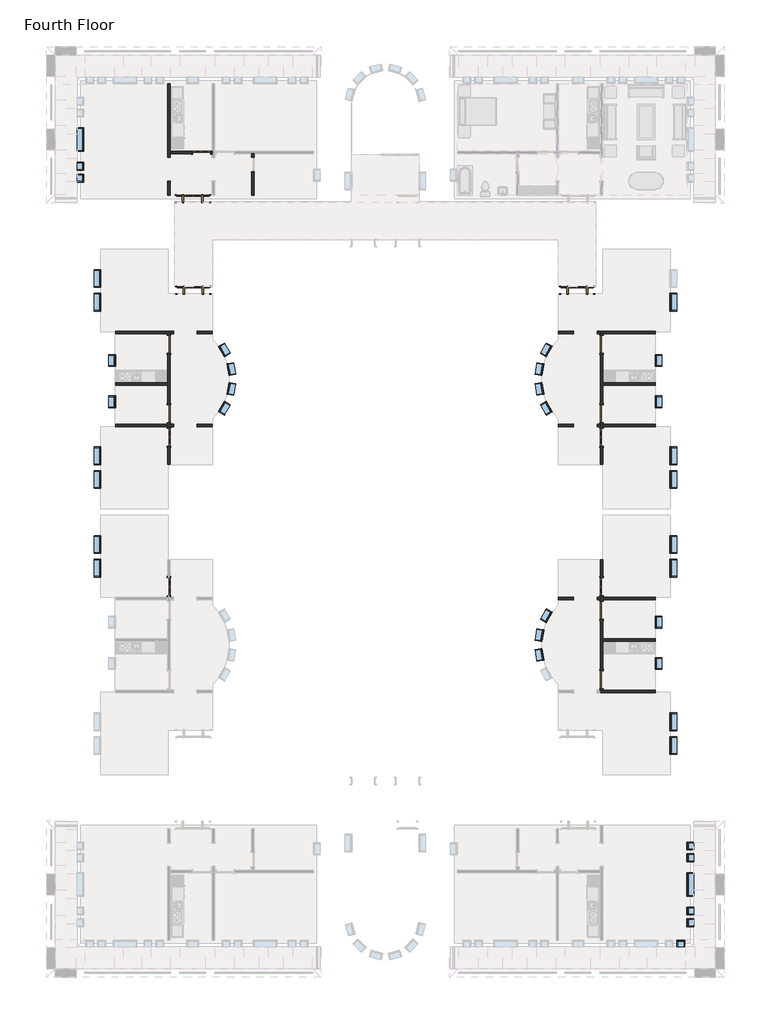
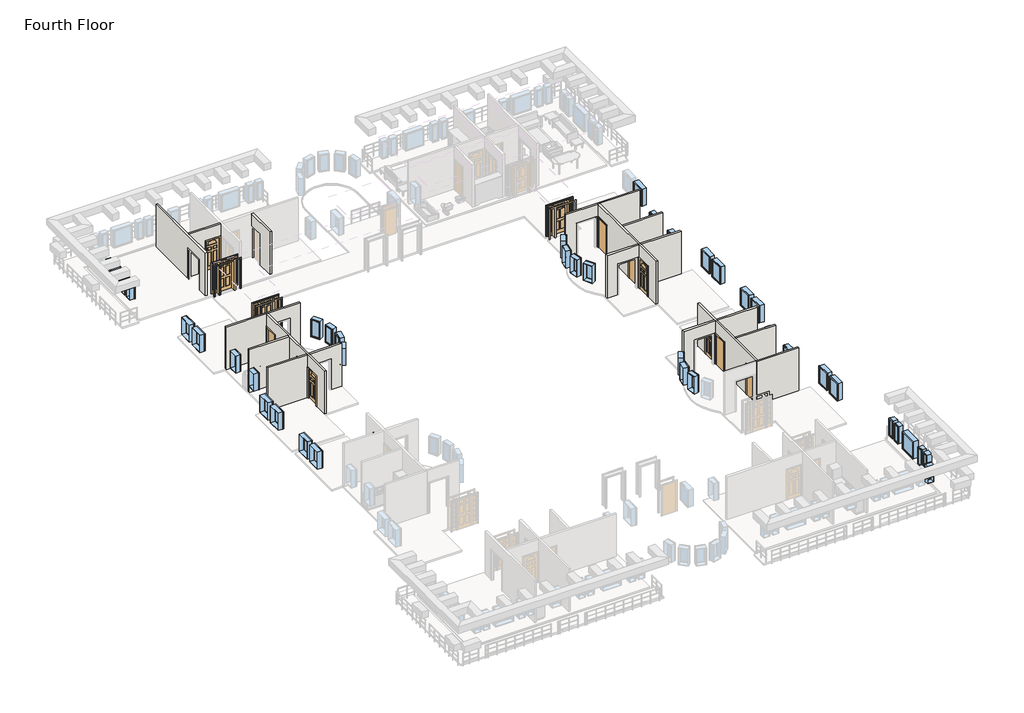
# One storey, part 2 of 5: 39 windows, 20 walls, 14 doors.
"""IFC4 building model written with IfcOpenShell, lengths in millimetres."""

from ifc_helpers import new_model, si_unit, frame, origin, place, context, project, spatial, polyline, outline, extrude, faceted_brep, transform, mapped, element, save
from components import door_829da954, door_2e3b4da2, door_a1797ceb, door_a3eb833a, door_dba5aa2e, door_ffdb1193, window_da97879f, window_d61ef850, window_60baf983, window_ed80354a, window_15c49d37, window_0e2fc6ce, window_d89bf842

model = new_model("IFC4")

# Units and contexts
model_context = context("Model", 3, world=origin())
ifc_project = project(units=[si_unit("LENGTHUNIT", "METRE", prefix="MILLI")], contexts=[model_context])

# Site, building, storey
site = spatial("IfcSite", under=ifc_project)
building = spatial("IfcBuilding", under=site)
storey = spatial("IfcBuildingStorey", under=building, Name="Fourth Floor", Elevation=9144.0)

# Doors
placement = place(None, origin())
door_shape = door_829da954(model_context)
element("IfcDoor", 1, ObjectType="Single-Decorative 2 : 36\" x 84\"", at=placement, inside=storey, context=model_context, shape_type="MappedRepresentation", body=[
    mapped(door_shape, transform((-26096.8839563, -7954.4808133, 9144.0), x_axis=(0.0, 1.0, 0.0), y_axis=(-1.0, 0.0, 0.0), z_axis=(0.0, 0.0, 1.0))),
])
element("IfcDoor", 2, ObjectType="Single-Decorative 2 : 36\" x 84\"", at=placement, inside=storey, context=model_context, shape_type="MappedRepresentation", body=[
    mapped(door_shape, transform((-3773.4589563, -15653.8558133, 9144.0), x_axis=(0.0, -1.0, 0.0), y_axis=(1.0, 0.0, 0.0), z_axis=(0.0, 0.0, 1.0))),
])
door_2_shape = door_2e3b4da2(model_context)
element("IfcDoor", 3, ObjectType="Single-Decorative 2 : 36\" x 84\"", at=placement, inside=storey, context=model_context, shape_type="MappedRepresentation", body=[
    mapped(door_2_shape, transform((-3773.4589563, -7954.4808133, 9144.0), x_axis=(0.0, 1.0, 0.0), y_axis=(-1.0, 0.0, 0.0), z_axis=(0.0, 0.0, 1.0))),
])
element("IfcDoor", 4, ObjectType="Single-Decorative 2 : 36\" x 84\"", at=placement, inside=storey, context=model_context, shape_type="MappedRepresentation", body=[
    mapped(door_2_shape, transform((-24420.4839563, 6723.5441867, 9144.0), x_axis=(1.0, 0.0, 0.0), y_axis=(0.0, 1.0, 0.0), z_axis=(0.0, 0.0, 1.0))),
])
element("IfcDoor", 5, ObjectType="Single-Decorative 2 : 36\" x 84\"", at=placement, inside=storey, context=model_context, shape_type="MappedRepresentation", body=[
    mapped(door_2_shape, transform((-26096.8839563, -15653.8558133, 9144.0), x_axis=(0.0, -1.0, 0.0), y_axis=(1.0, 0.0, 0.0), z_axis=(0.0, 0.0, 1.0))),
])
door_3_shape = door_a1797ceb(model_context)
element("IfcDoor", 6, ObjectType="Single-Flush : 36\" x 84\"", at=placement, inside=storey, context=model_context, shape_type="MappedRepresentation", body=[
    mapped(door_3_shape, transform((-3773.4589563, -3157.0558133, 9144.0), x_axis=(0.0, 1.0, 0.0), y_axis=(-1.0, 0.0, 0.0), z_axis=(0.0, 0.0, 1.0))),
])
element("IfcDoor", 7, ObjectType="Single-Flush : 36\" x 84\"", at=placement, inside=storey, context=model_context, shape_type="MappedRepresentation", body=[
    mapped(door_3_shape, transform((-26096.8839563, -6735.2808133, 9144.0), x_axis=(0.0, -1.0, 0.0), y_axis=(1.0, 0.0, 0.0), z_axis=(0.0, 0.0, 1.0))),
])
element("IfcDoor", 8, ObjectType="Single-Flush : 36\" x 84\"", at=placement, inside=storey, context=model_context, shape_type="MappedRepresentation", body=[
    mapped(door_3_shape, transform((-3773.4589563, -16873.0558133, 9144.0), x_axis=(0.0, 1.0, 0.0), y_axis=(-1.0, 0.0, 0.0), z_axis=(0.0, 0.0, 1.0))),
])
door_4_shape = door_a3eb833a(model_context)
element("IfcDoor", 9, ObjectType="Single-Flush : 36\" x 84\"", at=placement, inside=storey, context=model_context, shape_type="MappedRepresentation", body=[
    mapped(door_4_shape, transform((-3773.4589563, -6735.2808133, 9144.0), x_axis=(0.0, -1.0, 0.0), y_axis=(1.0, 0.0, 0.0), z_axis=(0.0, 0.0, 1.0))),
])
element("IfcDoor", 10, ObjectType="Single-Flush : 36\" x 84\"", at=placement, inside=storey, context=model_context, shape_type="MappedRepresentation", body=[
    mapped(door_4_shape, transform((-26096.8839563, -3157.0558133, 9144.0), x_axis=(0.0, 1.0, 0.0), y_axis=(-1.0, 0.0, 0.0), z_axis=(0.0, 0.0, 1.0))),
])
element("IfcDoor", 11, ObjectType="Single-Flush : 36\" x 84\"", at=placement, inside=storey, context=model_context, shape_type="MappedRepresentation", body=[
    mapped(door_4_shape, transform((-3773.4589563, -20451.2808133, 9144.0), x_axis=(0.0, -1.0, 0.0), y_axis=(1.0, 0.0, 0.0), z_axis=(0.0, 0.0, 1.0))),
])
door_5_shape = door_dba5aa2e(model_context)
element("IfcDoor", 12, ObjectType="Single-Raised Panel with Sidelights : 36\" x 84\"", at=placement, inside=storey, context=model_context, shape_type="MappedRepresentation", body=[
    mapped(door_5_shape, transform((-5029.1714563, -374.1683133, 9144.0), x_axis=(-1.0, 0.0, 0.0), y_axis=(0.0, -1.0, 0.0), z_axis=(0.0, 0.0, 1.0))),
])
door_6_shape = door_ffdb1193(model_context)
element("IfcDoor", 13, ObjectType="Single-Raised Panel with Sidelights : 36\" x 84\"", at=placement, inside=storey, context=model_context, shape_type="MappedRepresentation", body=[
    mapped(door_6_shape, transform((-24877.6839563, 4350.2316867, 9144.0), x_axis=(1.0, 0.0, 0.0), y_axis=(0.0, 1.0, 0.0), z_axis=(0.0, 0.0, 1.0))),
])
element("IfcDoor", 14, ObjectType="Single-Raised Panel with Sidelights : 36\" x 84\"", at=placement, inside=storey, context=model_context, shape_type="MappedRepresentation", body=[
    mapped(door_6_shape, transform((-24841.1714563, -374.1683133, 9144.0), x_axis=(1.0, 0.0, 0.0), y_axis=(0.0, 1.0, 0.0), z_axis=(0.0, 0.0, 1.0))),
])

# Walls
element("IfcWall", 15, ObjectType="Interior - 5\" Partition (2-hr)", at=placement, inside=storey, context=model_context, shape_type="Brep", body=[
    faceted_brep([(-1014.3839563, -2483.9558133, 9144.0), (-3836.9589563, -2483.9558133, 9144.0), (-3836.9589563, -2483.9558133, 12192.0), (-1014.3839563, -2483.9558133, 12192.0), (-1014.3839563, -2610.9558133, 9144.0), (-1014.3839563, -2610.9558133, 12192.0), (-3709.9589563, -2610.9558133, 12192.0), (-3836.9589563, -2610.9558133, 12192.0), (-3836.9589563, -2610.9558133, 9144.0), (-3709.9589563, -2610.9558133, 9144.0)], [[[0, 1, 2, 3]], [[4, 5, 6, 7, 8, 9]], [[1, 0, 4, 9, 8]], [[3, 2, 7, 6, 5]], [[2, 1, 8, 7]], [[0, 3, 5, 4]]]),
])
element("IfcWall", 16, ObjectType="Interior - 5\" Partition (2-hr)", at=placement, inside=storey, context=model_context, shape_type="Brep", body=[
    faceted_brep([(-3709.9589563, -7497.2808133, 11277.6), (-3709.9589563, -7497.2808133, 9144.0), (-3709.9589563, -7408.3808133, 9144.0), (-3709.9589563, -7281.3808133, 9144.0), (-3709.9589563, -7192.4808133, 9144.0), (-3709.9589563, -7192.4808133, 11277.6), (-3709.9589563, -6278.0808133, 11277.6), (-3709.9589563, -6278.0808133, 9144.0), (-3709.9589563, -5274.7808133, 9144.0), (-3709.9589563, -5147.7808133, 9144.0), (-3709.9589563, -3614.2558133, 9144.0), (-3709.9589563, -3614.2558133, 11277.6), (-3709.9589563, -2699.8558133, 11277.6), (-3709.9589563, -2699.8558133, 9144.0), (-3709.9589563, -2610.9558133, 9144.0), (-3709.9589563, -2610.9558133, 12192.0), (-3709.9589563, -5147.7808133, 12192.0), (-3709.9589563, -5274.7808133, 12192.0), (-3709.9589563, -7281.3808133, 12192.0), (-3709.9589563, -7408.3808133, 12192.0), (-3709.9589563, -9341.9558133, 12192.0), (-3709.9589563, -9341.9558133, 9144.0), (-3709.9589563, -8411.6808133, 9144.0), (-3709.9589563, -8411.6808133, 11277.6), (-3836.9589563, -7192.4808133, 9144.0), (-3836.9589563, -7281.3808133, 9144.0), (-3836.9589563, -7408.3808133, 9144.0), (-3836.9589563, -7497.2808133, 9144.0), (-3836.9589563, -7497.2808133, 11277.6), (-3836.9589563, -8411.6808133, 11277.6), (-3836.9589563, -8411.6808133, 9144.0), (-3836.9589563, -9341.9558133, 9144.0), (-3836.9589563, -9341.9558133, 12192.0), (-3836.9589563, -7408.3808133, 12192.0), (-3836.9589563, -7281.3808133, 12192.0), (-3836.9589563, -2610.9558133, 12192.0), (-3836.9589563, -2610.9558133, 9144.0), (-3836.9589563, -2699.8558133, 9144.0), (-3836.9589563, -2699.8558133, 11277.6), (-3836.9589563, -3614.2558133, 11277.6), (-3836.9589563, -3614.2558133, 9144.0), (-3836.9589563, -6278.0808133, 9144.0), (-3836.9589563, -6278.0808133, 11277.6), (-3836.9589563, -7192.4808133, 11277.6)], [[[0, 1, 2, 3, 4, 5, 6, 7, 8, 9, 10, 11, 12, 13, 14, 15, 16, 17, 18, 19, 20, 21, 22, 23]], [[24, 25, 26, 27, 28, 29, 30, 31, 32, 33, 34, 35, 36, 37, 38, 39, 40, 41, 42, 43]], [[14, 13, 37, 36]], [[4, 3, 2, 1, 27, 26, 25, 24]], [[41, 40, 10, 9, 8, 7]], [[22, 21, 31, 30]], [[20, 19, 18, 17, 16, 15, 35, 34, 33, 32]], [[15, 14, 36, 35]], [[21, 20, 32, 31]], [[38, 37, 13, 12]], [[39, 38, 12, 11]], [[40, 39, 11, 10]], [[5, 4, 24, 43]], [[6, 5, 43, 42]], [[7, 6, 42, 41]], [[28, 27, 1, 0]], [[29, 28, 0, 23]], [[30, 29, 23, 22]]]),
])
element("IfcWall", 17, ObjectType="Interior - 5\" Partition (2-hr)", at=placement, inside=storey, context=model_context, shape_type="SweptSolid", body=[
    extrude(outline(polyline([(-3709.9589563, -7281.3808133), (-1014.3839563, -7281.3808133), (-1014.3839563, -7408.3808133), (-3709.9589563, -7408.3808133), (-3709.9589563, -7281.3808133)])), frame((0.0, 0.0, 9144.0), z_axis=(0.0, 0.0, 1.0), x_axis=(1.0, 0.0, 0.0)), (0.0, 0.0, 1.0), 3048.0),
])
element("IfcWall", 18, ObjectType="Interior - 5\" Partition (2-hr)", at=placement, inside=storey, context=model_context, shape_type="SweptSolid", body=[
    extrude(outline(polyline([(-1014.3839563, -5274.7808133), (-3709.9589563, -5274.7808133), (-3709.9589563, -5147.7808133), (-1014.3839563, -5147.7808133), (-1014.3839563, -5274.7808133)])), frame((0.0, 0.0, 9144.0), z_axis=(0.0, 0.0, 1.0), x_axis=(1.0, 0.0, 0.0)), (0.0, 0.0, 1.0), 3048.0),
])
element("IfcWall", 19, ObjectType="Interior - 5\" Partition (2-hr)", at=placement, inside=storey, context=model_context, shape_type="SweptSolid", body=[
    extrude(outline(polyline([(9144.0, -5995.9589563), (9144.0, -5221.2589563), (11277.6, -5221.2589563), (11277.6, -4002.0589563), (9144.0, -4002.0589563), (9144.0, -3836.9589563), (12192.0, -3836.9589563), (12192.0, -5995.9589563), (9144.0, -5995.9589563)])), frame((0.0, -7408.3808133, 0.0), z_axis=(0.0, 1.0, 0.0), x_axis=(0.0, 0.0, 1.0)), (0.0, 0.0, 1.0), 127.0),
])
element("IfcWall", 20, ObjectType="Interior - 5\" Partition (2-hr)", at=placement, inside=storey, context=model_context, shape_type="SweptSolid", body=[
    extrude(outline(polyline([(11277.6, -4002.0589563), (9144.0, -4002.0589563), (9144.0, -3836.9589563), (12192.0, -3836.9589563), (12192.0, -5995.9589563), (9144.0, -5995.9589563), (9144.0, -5221.2589563), (11277.6, -5221.2589563), (11277.6, -4002.0589563)])), frame((0.0, -2610.9558133, 0.0), z_axis=(0.0, 1.0, 0.0), x_axis=(0.0, 0.0, 1.0)), (0.0, 0.0, 1.0), 127.0),
])
element("IfcWall", 21, ObjectType="Interior - 5\" Partition (2-hr)", at=placement, inside=storey, context=model_context, shape_type="Brep", body=[
    faceted_brep([(-26160.3839563, 10270.0191867, 9144.0), (-26160.3839563, 6483.8316867, 9144.0), (-26160.3839563, 6483.8316867, 11277.6), (-26160.3839563, 5264.6316867, 11277.6), (-26160.3839563, 5264.6316867, 9144.0), (-26160.3839563, 4526.4441867, 9144.0), (-26160.3839563, 4526.4441867, 12192.0), (-26160.3839563, 10270.0191867, 12192.0), (-26033.3839563, 6483.8316867, 11277.6), (-26033.3839563, 6483.8316867, 9144.0), (-26033.3839563, 6660.0441867, 9144.0), (-26033.3839563, 6787.0441867, 9144.0), (-26033.3839563, 10270.0191867, 9144.0), (-26033.3839563, 10270.0191867, 12192.0), (-26033.3839563, 6787.0441867, 12192.0), (-26033.3839563, 6660.0441867, 12192.0), (-26033.3839563, 4526.4441867, 12192.0), (-26033.3839563, 4526.4441867, 9144.0), (-26033.3839563, 5264.6316867, 9144.0), (-26033.3839563, 5264.6316867, 11277.6)], [[[0, 1, 2, 3, 4, 5, 6, 7]], [[8, 9, 10, 11, 12, 13, 14, 15, 16, 17, 18, 19]], [[12, 11, 10, 9, 1, 0]], [[18, 17, 5, 4]], [[7, 6, 16, 15, 14, 13]], [[0, 7, 13, 12]], [[6, 5, 17, 16]], [[4, 3, 19, 18]], [[2, 1, 9, 8]], [[3, 2, 8, 19]]]),
])
element("IfcWall", 22, ObjectType="Interior - 5\" Partition (2-hr)", at=placement, inside=storey, context=model_context, shape_type="SweptSolid", body=[
    extrude(outline(polyline([(6660.0441867, 9144.0), (6494.9441867, 9144.0), (6494.9441867, 11277.6), (5732.9441867, 11277.6), (5732.9441867, 9144.0), (4526.4441867, 9144.0), (4526.4441867, 12192.0), (6660.0441867, 12192.0), (6660.0441867, 9144.0)])), frame((-21828.0964563, 0.0, 0.0), z_axis=(1.0, 0.0, 0.0), x_axis=(0.0, 1.0, 0.0)), (0.0, 0.0, 1.0), 127.0),
])
element("IfcWall", 23, ObjectType="Interior - 5\" Partition (2-hr)", at=placement, inside=storey, context=model_context, shape_type="SweptSolid", body=[
    extrude(outline(polyline([(11277.6, -23963.2839563), (9144.0, -23963.2839563), (9144.0, -23874.3839563), (12192.0, -23874.3839563), (12192.0, -26033.3839563), (9144.0, -26033.3839563), (9144.0, -24877.6839563), (11277.6, -24877.6839563), (11277.6, -23963.2839563)])), frame((0.0, 6660.0441867, 0.0), z_axis=(0.0, 1.0, 0.0), x_axis=(0.0, 0.0, 1.0)), (0.0, 0.0, 1.0), 127.0),
])
element("IfcWall", 24, ObjectType="Interior - 5\" Partition (2-hr)", at=placement, inside=storey, context=model_context, shape_type="Brep", body=[
    faceted_brep([(-28855.9589563, -2610.9558133, 9144.0), (-26160.3839563, -2610.9558133, 9144.0), (-26033.3839563, -2610.9558133, 9144.0), (-26033.3839563, -2610.9558133, 12192.0), (-26160.3839563, -2610.9558133, 12192.0), (-28855.9589563, -2610.9558133, 12192.0), (-28855.9589563, -2483.9558133, 9144.0), (-28855.9589563, -2483.9558133, 12192.0), (-26033.3839563, -2483.9558133, 12192.0), (-26033.3839563, -2483.9558133, 9144.0)], [[[0, 1, 2, 3, 4, 5]], [[6, 7, 8, 9]], [[2, 1, 0, 6, 9]], [[5, 4, 3, 8, 7]], [[3, 2, 9, 8]], [[0, 5, 7, 6]]]),
])
element("IfcWall", 25, ObjectType="Interior - 5\" Partition (2-hr)", at=placement, inside=storey, context=model_context, shape_type="Brep", body=[
    faceted_brep([(-26033.3839563, -7497.2808133, 11277.6), (-26033.3839563, -7497.2808133, 9144.0), (-26033.3839563, -7408.3808133, 9144.0), (-26033.3839563, -7281.3808133, 9144.0), (-26033.3839563, -7192.4808133, 9144.0), (-26033.3839563, -7192.4808133, 11277.6), (-26033.3839563, -6278.0808133, 11277.6), (-26033.3839563, -6278.0808133, 9144.0), (-26033.3839563, -3614.2558133, 9144.0), (-26033.3839563, -3614.2558133, 11277.6), (-26033.3839563, -2699.8558133, 11277.6), (-26033.3839563, -2699.8558133, 9144.0), (-26033.3839563, -2610.9558133, 9144.0), (-26033.3839563, -2610.9558133, 12192.0), (-26033.3839563, -7281.3808133, 12192.0), (-26033.3839563, -7408.3808133, 12192.0), (-26033.3839563, -9341.9558133, 12192.0), (-26033.3839563, -9341.9558133, 9144.0), (-26033.3839563, -8411.6808133, 9144.0), (-26033.3839563, -8411.6808133, 11277.6), (-26160.3839563, -7192.4808133, 9144.0), (-26160.3839563, -7281.3808133, 9144.0), (-26160.3839563, -7408.3808133, 9144.0), (-26160.3839563, -7497.2808133, 9144.0), (-26160.3839563, -7497.2808133, 11277.6), (-26160.3839563, -8411.6808133, 11277.6), (-26160.3839563, -8411.6808133, 9144.0), (-26160.3839563, -9341.9558133, 9144.0), (-26160.3839563, -9341.9558133, 12192.0), (-26160.3839563, -7408.3808133, 12192.0), (-26160.3839563, -7281.3808133, 12192.0), (-26160.3839563, -5274.7808133, 12192.0), (-26160.3839563, -5147.7808133, 12192.0), (-26160.3839563, -2610.9558133, 12192.0), (-26160.3839563, -2610.9558133, 9144.0), (-26160.3839563, -2699.8558133, 9144.0), (-26160.3839563, -2699.8558133, 11277.6), (-26160.3839563, -3614.2558133, 11277.6), (-26160.3839563, -3614.2558133, 9144.0), (-26160.3839563, -5147.7808133, 9144.0), (-26160.3839563, -5274.7808133, 9144.0), (-26160.3839563, -6278.0808133, 9144.0), (-26160.3839563, -6278.0808133, 11277.6), (-26160.3839563, -7192.4808133, 11277.6)], [[[0, 1, 2, 3, 4, 5, 6, 7, 8, 9, 10, 11, 12, 13, 14, 15, 16, 17, 18, 19]], [[20, 21, 22, 23, 24, 25, 26, 27, 28, 29, 30, 31, 32, 33, 34, 35, 36, 37, 38, 39, 40, 41, 42, 43]], [[12, 11, 35, 34]], [[4, 3, 2, 1, 23, 22, 21, 20]], [[41, 40, 39, 38, 8, 7]], [[18, 17, 27, 26]], [[16, 15, 14, 13, 33, 32, 31, 30, 29, 28]], [[13, 12, 34, 33]], [[17, 16, 28, 27]], [[36, 35, 11, 10]], [[37, 36, 10, 9]], [[38, 37, 9, 8]], [[5, 4, 20, 43]], [[6, 5, 43, 42]], [[7, 6, 42, 41]], [[24, 23, 1, 0]], [[25, 24, 0, 19]], [[26, 25, 19, 18]]]),
])
element("IfcWall", 26, ObjectType="Interior - 5\" Partition (2-hr)", at=placement, inside=storey, context=model_context, shape_type="SweptSolid", body=[
    extrude(outline(polyline([(-26160.3839563, -7408.3808133), (-28855.9589563, -7408.3808133), (-28855.9589563, -7281.3808133), (-26160.3839563, -7281.3808133), (-26160.3839563, -7408.3808133)])), frame((0.0, 0.0, 9144.0), z_axis=(0.0, 0.0, 1.0), x_axis=(1.0, 0.0, 0.0)), (0.0, 0.0, 1.0), 3048.0),
])
element("IfcWall", 27, ObjectType="Interior - 5\" Partition (2-hr)", at=placement, inside=storey, context=model_context, shape_type="SweptSolid", body=[
    extrude(outline(polyline([(-28855.9589563, -5147.7808133), (-26160.3839563, -5147.7808133), (-26160.3839563, -5274.7808133), (-28855.9589563, -5274.7808133), (-28855.9589563, -5147.7808133)])), frame((0.0, 0.0, 9144.0), z_axis=(0.0, 0.0, 1.0), x_axis=(1.0, 0.0, 0.0)), (0.0, 0.0, 1.0), 3048.0),
])
element("IfcWall", 28, ObjectType="Interior - 5\" Partition (2-hr)", at=placement, inside=storey, context=model_context, shape_type="SweptSolid", body=[
    extrude(outline(polyline([(11277.6, -24649.0839563), (9144.0, -24649.0839563), (9144.0, -23874.3839563), (12192.0, -23874.3839563), (12192.0, -26033.3839563), (9144.0, -26033.3839563), (9144.0, -25868.2839563), (11277.6, -25868.2839563), (11277.6, -24649.0839563)])), frame((0.0, -7408.3808133, 0.0), z_axis=(0.0, 1.0, 0.0), x_axis=(0.0, 0.0, 1.0)), (0.0, 0.0, 1.0), 127.0),
])
element("IfcWall", 29, ObjectType="Interior - 5\" Partition (2-hr)", at=placement, inside=storey, context=model_context, shape_type="SweptSolid", body=[
    extrude(outline(polyline([(9144.0, -26033.3839563), (9144.0, -25868.2839563), (11277.6, -25868.2839563), (11277.6, -24649.0839563), (9144.0, -24649.0839563), (9144.0, -23874.3839563), (12192.0, -23874.3839563), (12192.0, -26033.3839563), (9144.0, -26033.3839563)])), frame((0.0, -2610.9558133, 0.0), z_axis=(0.0, 1.0, 0.0), x_axis=(0.0, 0.0, 1.0)), (0.0, 0.0, 1.0), 127.0),
])
element("IfcWall", 30, ObjectType="Interior - 5\" Partition (2-hr)", at=placement, inside=storey, context=model_context, shape_type="Brep", body=[
    faceted_brep([(-1014.3839563, -20997.3808133, 9144.0), (-3709.9589563, -20997.3808133, 9144.0), (-3836.9589563, -20997.3808133, 9144.0), (-3836.9589563, -20997.3808133, 12192.0), (-3709.9589563, -20997.3808133, 12192.0), (-1014.3839563, -20997.3808133, 12192.0), (-1014.3839563, -21124.3808133, 9144.0), (-1014.3839563, -21124.3808133, 12192.0), (-3836.9589563, -21124.3808133, 12192.0), (-3836.9589563, -21124.3808133, 9144.0)], [[[0, 1, 2, 3, 4, 5]], [[6, 7, 8, 9]], [[2, 1, 0, 6, 9]], [[5, 4, 3, 8, 7]], [[3, 2, 9, 8]], [[0, 5, 7, 6]]]),
])
element("IfcWall", 31, ObjectType="Interior - 5\" Partition (2-hr)", at=placement, inside=storey, context=model_context, shape_type="Brep", body=[
    faceted_brep([(-3836.9589563, -16111.0558133, 11277.6), (-3836.9589563, -16111.0558133, 9144.0), (-3836.9589563, -16199.9558133, 9144.0), (-3836.9589563, -16326.9558133, 9144.0), (-3836.9589563, -16415.8558133, 9144.0), (-3836.9589563, -16415.8558133, 11277.6), (-3836.9589563, -17330.2558133, 11277.6), (-3836.9589563, -17330.2558133, 9144.0), (-3836.9589563, -19994.0808133, 9144.0), (-3836.9589563, -19994.0808133, 11277.6), (-3836.9589563, -20908.4808133, 11277.6), (-3836.9589563, -20908.4808133, 9144.0), (-3836.9589563, -20997.3808133, 9144.0), (-3836.9589563, -20997.3808133, 12192.0), (-3836.9589563, -16326.9558133, 12192.0), (-3836.9589563, -16199.9558133, 12192.0), (-3836.9589563, -14266.3808133, 12192.0), (-3836.9589563, -14266.3808133, 9144.0), (-3836.9589563, -15196.6558133, 9144.0), (-3836.9589563, -15196.6558133, 11277.6), (-3709.9589563, -16415.8558133, 9144.0), (-3709.9589563, -16326.9558133, 9144.0), (-3709.9589563, -16199.9558133, 9144.0), (-3709.9589563, -16111.0558133, 9144.0), (-3709.9589563, -16111.0558133, 11277.6), (-3709.9589563, -15196.6558133, 11277.6), (-3709.9589563, -15196.6558133, 9144.0), (-3709.9589563, -14266.3808133, 9144.0), (-3709.9589563, -14266.3808133, 12192.0), (-3709.9589563, -16199.9558133, 12192.0), (-3709.9589563, -16326.9558133, 12192.0), (-3709.9589563, -18333.5558133, 12192.0), (-3709.9589563, -18460.5558133, 12192.0), (-3709.9589563, -20997.3808133, 12192.0), (-3709.9589563, -20997.3808133, 9144.0), (-3709.9589563, -20908.4808133, 9144.0), (-3709.9589563, -20908.4808133, 11277.6), (-3709.9589563, -19994.0808133, 11277.6), (-3709.9589563, -19994.0808133, 9144.0), (-3709.9589563, -18460.5558133, 9144.0), (-3709.9589563, -18333.5558133, 9144.0), (-3709.9589563, -17330.2558133, 9144.0), (-3709.9589563, -17330.2558133, 11277.6), (-3709.9589563, -16415.8558133, 11277.6)], [[[0, 1, 2, 3, 4, 5, 6, 7, 8, 9, 10, 11, 12, 13, 14, 15, 16, 17, 18, 19]], [[20, 21, 22, 23, 24, 25, 26, 27, 28, 29, 30, 31, 32, 33, 34, 35, 36, 37, 38, 39, 40, 41, 42, 43]], [[12, 11, 35, 34]], [[4, 3, 2, 1, 23, 22, 21, 20]], [[41, 40, 39, 38, 8, 7]], [[18, 17, 27, 26]], [[16, 15, 14, 13, 33, 32, 31, 30, 29, 28]], [[13, 12, 34, 33]], [[17, 16, 28, 27]], [[36, 35, 11, 10]], [[37, 36, 10, 9]], [[38, 37, 9, 8]], [[5, 4, 20, 43]], [[6, 5, 43, 42]], [[7, 6, 42, 41]], [[24, 23, 1, 0]], [[25, 24, 0, 19]], [[26, 25, 19, 18]]]),
])
element("IfcWall", 32, ObjectType="Interior - 5\" Partition (2-hr)", at=placement, inside=storey, context=model_context, shape_type="SweptSolid", body=[
    extrude(outline(polyline([(-3709.9589563, -16199.9558133), (-1014.3839563, -16199.9558133), (-1014.3839563, -16326.9558133), (-3709.9589563, -16326.9558133), (-3709.9589563, -16199.9558133)])), frame((0.0, 0.0, 9144.0), z_axis=(0.0, 0.0, 1.0), x_axis=(1.0, 0.0, 0.0)), (0.0, 0.0, 1.0), 3048.0),
])
element("IfcWall", 33, ObjectType="Interior - 5\" Partition (2-hr)", at=placement, inside=storey, context=model_context, shape_type="SweptSolid", body=[
    extrude(outline(polyline([(-1014.3839563, -18460.5558133), (-3709.9589563, -18460.5558133), (-3709.9589563, -18333.5558133), (-1014.3839563, -18333.5558133), (-1014.3839563, -18460.5558133)])), frame((0.0, 0.0, 9144.0), z_axis=(0.0, 0.0, 1.0), x_axis=(1.0, 0.0, 0.0)), (0.0, 0.0, 1.0), 3048.0),
])
element("IfcWall", 34, ObjectType="Interior - 5\" Partition (2-hr)", at=placement, inside=storey, context=model_context, shape_type="SweptSolid", body=[
    extrude(outline(polyline([(9144.0, -5995.9589563), (9144.0, -5221.2589563), (11277.6, -5221.2589563), (11277.6, -4002.0589563), (9144.0, -4002.0589563), (9144.0, -3836.9589563), (12192.0, -3836.9589563), (12192.0, -5995.9589563), (9144.0, -5995.9589563)])), frame((0.0, -16326.9558133, 0.0), z_axis=(0.0, 1.0, 0.0), x_axis=(0.0, 0.0, 1.0)), (0.0, 0.0, 1.0), 127.0),
])

# Windows
window_shape = window_da97879f(model_context)
element("IfcWindow", 35, ObjectType="Fixed : 16\" x 48\"", at=placement, inside=storey, context=model_context, shape_type="MappedRepresentation", body=[
    mapped(window_shape, transform((-30668.8839563, 5378.9316867, 9144.0), x_axis=(0.0, -1.0, 0.0), y_axis=(1.0, 0.0, 0.0), z_axis=(0.0, 0.0, 1.0))),
])
element("IfcWindow", 36, ObjectType="Fixed : 16\" x 48\"", at=placement, inside=storey, context=model_context, shape_type="MappedRepresentation", body=[
    mapped(window_shape, transform((-30668.8839563, 5988.5316867, 9144.0), x_axis=(0.0, -1.0, 0.0), y_axis=(1.0, 0.0, 0.0), z_axis=(0.0, 0.0, 1.0))),
])
element("IfcWindow", 37, ObjectType="Fixed : 16\" x 48\"", at=placement, inside=storey, context=model_context, shape_type="MappedRepresentation", body=[
    mapped(window_shape, transform((354.0410437, -34054.5683133, 9144.0), x_axis=(1.0, 0.0, 0.0), y_axis=(0.0, 1.0, 0.0), z_axis=(0.0, 0.0, 1.0))),
])
element("IfcWindow", 38, ObjectType="Fixed : 16\" x 48\"", at=placement, inside=storey, context=model_context, shape_type="MappedRepresentation", body=[
    mapped(window_shape, transform((798.5410437, -28987.2683133, 9144.0), x_axis=(0.0, 1.0, 0.0), y_axis=(-1.0, 0.0, 0.0), z_axis=(0.0, 0.0, 1.0))),
])
element("IfcWindow", 39, ObjectType="Fixed : 16\" x 48\"", at=placement, inside=storey, context=model_context, shape_type="MappedRepresentation", body=[
    mapped(window_shape, transform((798.5410437, -29596.8683133, 9144.0), x_axis=(0.0, 1.0, 0.0), y_axis=(-1.0, 0.0, 0.0), z_axis=(0.0, 0.0, 1.0))),
])
window_2_shape = window_d61ef850(model_context)
element("IfcWindow", 40, ObjectType="Fixed : 16\" x 48\"", at=placement, inside=storey, context=model_context, shape_type="MappedRepresentation", body=[
    mapped(window_2_shape, transform((798.5410437, -33025.8683133, 9144.0), x_axis=(0.0, -1.0, 0.0), y_axis=(1.0, 0.0, 0.0), z_axis=(0.0, 0.0, 1.0))),
])
element("IfcWindow", 41, ObjectType="Fixed : 16\" x 48\"", at=placement, inside=storey, context=model_context, shape_type="MappedRepresentation", body=[
    mapped(window_2_shape, transform((798.5410437, -32416.2683133, 9144.0), x_axis=(0.0, -1.0, 0.0), y_axis=(1.0, 0.0, 0.0), z_axis=(0.0, 0.0, 1.0))),
])
window_3_shape = window_60baf983(model_context)
element("IfcWindow", 42, ObjectType="Fixed : 24\" x 48\"", at=placement, inside=storey, context=model_context, shape_type="MappedRepresentation", body=[
    mapped(window_3_shape, transform((-6648.1467215, -3474.0215337, 9144.0), x_axis=(-0.4961910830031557, -0.8682133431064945, 0.0), y_axis=(0.8682133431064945, -0.4961910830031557, 0.0), z_axis=(0.0, 0.0, 1.0))),
])
element("IfcWindow", 43, ObjectType="Fixed : 24\" x 48\"", at=placement, inside=storey, context=model_context, shape_type="MappedRepresentation", body=[
    mapped(window_3_shape, transform((-6991.4751134, -4468.822297, 9144.0), x_axis=(-0.16973229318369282, -0.9854902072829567, 0.0), y_axis=(0.9854902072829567, -0.16973229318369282, 0.0), z_axis=(0.0, 0.0, 1.0))),
])
element("IfcWindow", 44, ObjectType="Fixed : 24\" x 48\"", at=placement, inside=storey, context=model_context, shape_type="MappedRepresentation", body=[
    mapped(window_3_shape, transform((-29032.1714563, -4030.1808133, 9144.0), x_axis=(0.0, -1.0, 0.0), y_axis=(1.0, 0.0, 0.0), z_axis=(0.0, 0.0, 1.0))),
])
element("IfcWindow", 45, ObjectType="Fixed : 24\" x 48\"", at=placement, inside=storey, context=model_context, shape_type="MappedRepresentation", body=[
    mapped(window_3_shape, transform((-29032.1714563, -6163.7808133, 9144.0), x_axis=(0.0, -1.0, 0.0), y_axis=(1.0, 0.0, 0.0), z_axis=(0.0, 0.0, 1.0))),
])
element("IfcWindow", 46, ObjectType="Fixed : 24\" x 48\"", at=placement, inside=storey, context=model_context, shape_type="MappedRepresentation", body=[
    mapped(window_3_shape, transform((-23223.7429238, -6417.4311225, 9144.0), x_axis=(0.4961910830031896, 0.8682133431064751, 0.0), y_axis=(-0.8682133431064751, 0.4961910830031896, 0.0), z_axis=(0.0, 0.0, 1.0))),
])
element("IfcWindow", 47, ObjectType="Fixed : 24\" x 48\"", at=placement, inside=storey, context=model_context, shape_type="MappedRepresentation", body=[
    mapped(window_3_shape, transform((-22880.6234621, -5423.2119495, 9144.0), x_axis=(0.16973229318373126, 0.98549020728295, 0.0), y_axis=(-0.98549020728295, 0.16973229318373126, 0.0), z_axis=(0.0, 0.0, 1.0))),
])
element("IfcWindow", 48, ObjectType="Fixed : 24\" x 48\"", at=placement, inside=storey, context=model_context, shape_type="MappedRepresentation", body=[
    mapped(window_3_shape, transform((-838.1714563, -19578.1558133, 9144.0), x_axis=(0.0, 1.0, 0.0), y_axis=(-1.0, 0.0, 0.0), z_axis=(0.0, 0.0, 1.0))),
])
element("IfcWindow", 49, ObjectType="Fixed : 24\" x 48\"", at=placement, inside=storey, context=model_context, shape_type="MappedRepresentation", body=[
    mapped(window_3_shape, transform((-838.1714563, -17444.5558133, 9144.0), x_axis=(0.0, 1.0, 0.0), y_axis=(-1.0, 0.0, 0.0), z_axis=(0.0, 0.0, 1.0))),
])
element("IfcWindow", 50, ObjectType="Fixed : 24\" x 48\"", at=placement, inside=storey, context=model_context, shape_type="MappedRepresentation", body=[
    mapped(window_3_shape, transform((-6646.5999888, -17190.9055042, 9144.0), x_axis=(-0.49619108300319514, -0.868213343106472, 0.0), y_axis=(0.868213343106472, -0.49619108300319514, 0.0), z_axis=(0.0, 0.0, 1.0))),
])
element("IfcWindow", 51, ObjectType="Fixed : 24\" x 48\"", at=placement, inside=storey, context=model_context, shape_type="MappedRepresentation", body=[
    mapped(window_3_shape, transform((-6989.7194505, -18185.1246771, 9144.0), x_axis=(-0.1697322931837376, -0.9854902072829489, 0.0), y_axis=(0.9854902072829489, -0.1697322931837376, 0.0), z_axis=(0.0, 0.0, 1.0))),
])
window_4_shape = window_ed80354a(model_context)
element("IfcWindow", 52, ObjectType="Fixed : 24\" x 48\"", at=placement, inside=storey, context=model_context, shape_type="MappedRepresentation", body=[
    mapped(window_4_shape, transform((-838.1714563, -4030.1808133, 9144.0), x_axis=(0.0, -1.0, 0.0), y_axis=(1.0, 0.0, 0.0), z_axis=(0.0, 0.0, 1.0))),
])
element("IfcWindow", 53, ObjectType="Fixed : 24\" x 48\"", at=placement, inside=storey, context=model_context, shape_type="MappedRepresentation", body=[
    mapped(window_4_shape, transform((-838.1714563, -6163.7808133, 9144.0), x_axis=(0.0, -1.0, 0.0), y_axis=(1.0, 0.0, 0.0), z_axis=(0.0, 0.0, 1.0))),
])
element("IfcWindow", 54, ObjectType="Fixed : 24\" x 48\"", at=placement, inside=storey, context=model_context, shape_type="MappedRepresentation", body=[
    mapped(window_4_shape, transform((-6648.1467215, -6418.3150929, 9144.0), x_axis=(-0.4961910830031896, 0.8682133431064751, 0.0), y_axis=(-0.8682133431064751, -0.4961910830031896, 0.0), z_axis=(0.0, 0.0, 1.0))),
])
element("IfcWindow", 55, ObjectType="Fixed : 24\" x 48\"", at=placement, inside=storey, context=model_context, shape_type="MappedRepresentation", body=[
    mapped(window_4_shape, transform((-6991.4751134, -5423.5143296, 9144.0), x_axis=(-0.16973229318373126, 0.98549020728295, 0.0), y_axis=(-0.98549020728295, -0.16973229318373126, 0.0), z_axis=(0.0, 0.0, 1.0))),
])
element("IfcWindow", 56, ObjectType="Fixed : 24\" x 48\"", at=placement, inside=storey, context=model_context, shape_type="MappedRepresentation", body=[
    mapped(window_4_shape, transform((-23223.7429238, -3474.9055042, 9144.0), x_axis=(0.4961910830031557, -0.8682133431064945, 0.0), y_axis=(0.8682133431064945, 0.4961910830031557, 0.0), z_axis=(0.0, 0.0, 1.0))),
])
element("IfcWindow", 57, ObjectType="Fixed : 24\" x 48\"", at=placement, inside=storey, context=model_context, shape_type="MappedRepresentation", body=[
    mapped(window_4_shape, transform((-22880.6234621, -4469.1246771, 9144.0), x_axis=(0.16973229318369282, -0.9854902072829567, 0.0), y_axis=(0.9854902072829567, 0.16973229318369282, 0.0), z_axis=(0.0, 0.0, 1.0))),
])
element("IfcWindow", 58, ObjectType="Fixed : 24\" x 48\"", at=placement, inside=storey, context=model_context, shape_type="MappedRepresentation", body=[
    mapped(window_4_shape, transform((-6989.7194505, -19139.2119495, 9144.0), x_axis=(-0.1697322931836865, 0.9854902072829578, 0.0), y_axis=(-0.9854902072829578, -0.1697322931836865, 0.0), z_axis=(0.0, 0.0, 1.0))),
])
window_5_shape = window_15c49d37(model_context)
element("IfcWindow", 59, ObjectType="Fixed : 36\" x 48\"", at=placement, inside=storey, context=model_context, shape_type="MappedRepresentation", body=[
    mapped(window_5_shape, transform((-29794.1714563, -10165.8683133, 9144.0), x_axis=(0.0, -1.0, 0.0), y_axis=(1.0, 0.0, 0.0), z_axis=(0.0, 0.0, 1.0))),
])
element("IfcWindow", 60, ObjectType="Fixed : 36\" x 48\"", at=placement, inside=storey, context=model_context, shape_type="MappedRepresentation", body=[
    mapped(window_5_shape, transform((-29794.1714563, -8946.6683133, 9144.0), x_axis=(0.0, -1.0, 0.0), y_axis=(1.0, 0.0, 0.0), z_axis=(0.0, 0.0, 1.0))),
])
element("IfcWindow", 61, ObjectType="Fixed : 36\" x 48\"", at=placement, inside=storey, context=model_context, shape_type="MappedRepresentation", body=[
    mapped(window_5_shape, transform((-29794.1714563, 197.3316867, 9144.0), x_axis=(0.0, -1.0, 0.0), y_axis=(1.0, 0.0, 0.0), z_axis=(0.0, 0.0, 1.0))),
])
element("IfcWindow", 62, ObjectType="Fixed : 36\" x 48\"", at=placement, inside=storey, context=model_context, shape_type="MappedRepresentation", body=[
    mapped(window_5_shape, transform((-29794.1714563, -1021.8683133, 9144.0), x_axis=(0.0, -1.0, 0.0), y_axis=(1.0, 0.0, 0.0), z_axis=(0.0, 0.0, 1.0))),
])
element("IfcWindow", 63, ObjectType="Fixed : 36\" x 48\"", at=placement, inside=storey, context=model_context, shape_type="MappedRepresentation", body=[
    mapped(window_5_shape, transform((-76.1714563, -13442.4683133, 9144.0), x_axis=(0.0, 1.0, 0.0), y_axis=(-1.0, 0.0, 0.0), z_axis=(0.0, 0.0, 1.0))),
])
element("IfcWindow", 64, ObjectType="Fixed : 36\" x 48\"", at=placement, inside=storey, context=model_context, shape_type="MappedRepresentation", body=[
    mapped(window_5_shape, transform((-76.1714563, -14661.6683133, 9144.0), x_axis=(0.0, 1.0, 0.0), y_axis=(-1.0, 0.0, 0.0), z_axis=(0.0, 0.0, 1.0))),
])
element("IfcWindow", 65, ObjectType="Fixed : 36\" x 48\"", at=placement, inside=storey, context=model_context, shape_type="MappedRepresentation", body=[
    mapped(window_5_shape, transform((-76.1714563, -23805.6683133, 9144.0), x_axis=(0.0, 1.0, 0.0), y_axis=(-1.0, 0.0, 0.0), z_axis=(0.0, 0.0, 1.0))),
])
element("IfcWindow", 66, ObjectType="Fixed : 36\" x 48\"", at=placement, inside=storey, context=model_context, shape_type="MappedRepresentation", body=[
    mapped(window_5_shape, transform((-76.1714563, -22586.4683133, 9144.0), x_axis=(0.0, 1.0, 0.0), y_axis=(-1.0, 0.0, 0.0), z_axis=(0.0, 0.0, 1.0))),
])
window_6_shape = window_0e2fc6ce(model_context)
element("IfcWindow", 67, ObjectType="Fixed : 36\" x 48\"", at=placement, inside=storey, context=model_context, shape_type="MappedRepresentation", body=[
    mapped(window_6_shape, transform((-76.1714563, -10165.8683133, 9144.0), x_axis=(0.0, -1.0, 0.0), y_axis=(1.0, 0.0, 0.0), z_axis=(0.0, 0.0, 1.0))),
])
element("IfcWindow", 68, ObjectType="Fixed : 36\" x 48\"", at=placement, inside=storey, context=model_context, shape_type="MappedRepresentation", body=[
    mapped(window_6_shape, transform((-76.1714563, -8946.6683133, 9144.0), x_axis=(0.0, -1.0, 0.0), y_axis=(1.0, 0.0, 0.0), z_axis=(0.0, 0.0, 1.0))),
])
element("IfcWindow", 69, ObjectType="Fixed : 36\" x 48\"", at=placement, inside=storey, context=model_context, shape_type="MappedRepresentation", body=[
    mapped(window_6_shape, transform((-76.1714563, -1021.8683133, 9144.0), x_axis=(0.0, -1.0, 0.0), y_axis=(1.0, 0.0, 0.0), z_axis=(0.0, 0.0, 1.0))),
])
element("IfcWindow", 70, ObjectType="Fixed : 36\" x 48\"", at=placement, inside=storey, context=model_context, shape_type="MappedRepresentation", body=[
    mapped(window_6_shape, transform((-29794.1714563, -13442.4683133, 9144.0), x_axis=(0.0, 1.0, 0.0), y_axis=(-1.0, 0.0, 0.0), z_axis=(0.0, 0.0, 1.0))),
])
element("IfcWindow", 71, ObjectType="Fixed : 36\" x 48\"", at=placement, inside=storey, context=model_context, shape_type="MappedRepresentation", body=[
    mapped(window_6_shape, transform((-29794.1714563, -14661.6683133, 9144.0), x_axis=(0.0, 1.0, 0.0), y_axis=(-1.0, 0.0, 0.0), z_axis=(0.0, 0.0, 1.0))),
])
window_7_shape = window_d89bf842(model_context)
element("IfcWindow", 72, ObjectType="Fixed : 48\" x 48\"", at=placement, inside=storey, context=model_context, shape_type="MappedRepresentation", body=[
    mapped(window_7_shape, transform((-30668.8839563, 7436.3316867, 9144.0), x_axis=(0.0, 1.0, 0.0), y_axis=(-1.0, 0.0, 0.0), z_axis=(0.0, 0.0, 1.0))),
])
element("IfcWindow", 73, ObjectType="Fixed : 48\" x 48\"", at=placement, inside=storey, context=model_context, shape_type="MappedRepresentation", body=[
    mapped(window_7_shape, transform((798.5410437, -31044.6683133, 9144.0), x_axis=(0.0, -1.0, 0.0), y_axis=(1.0, 0.0, 0.0), z_axis=(0.0, 0.0, 1.0))),
])

save(model, "model.ifc")
